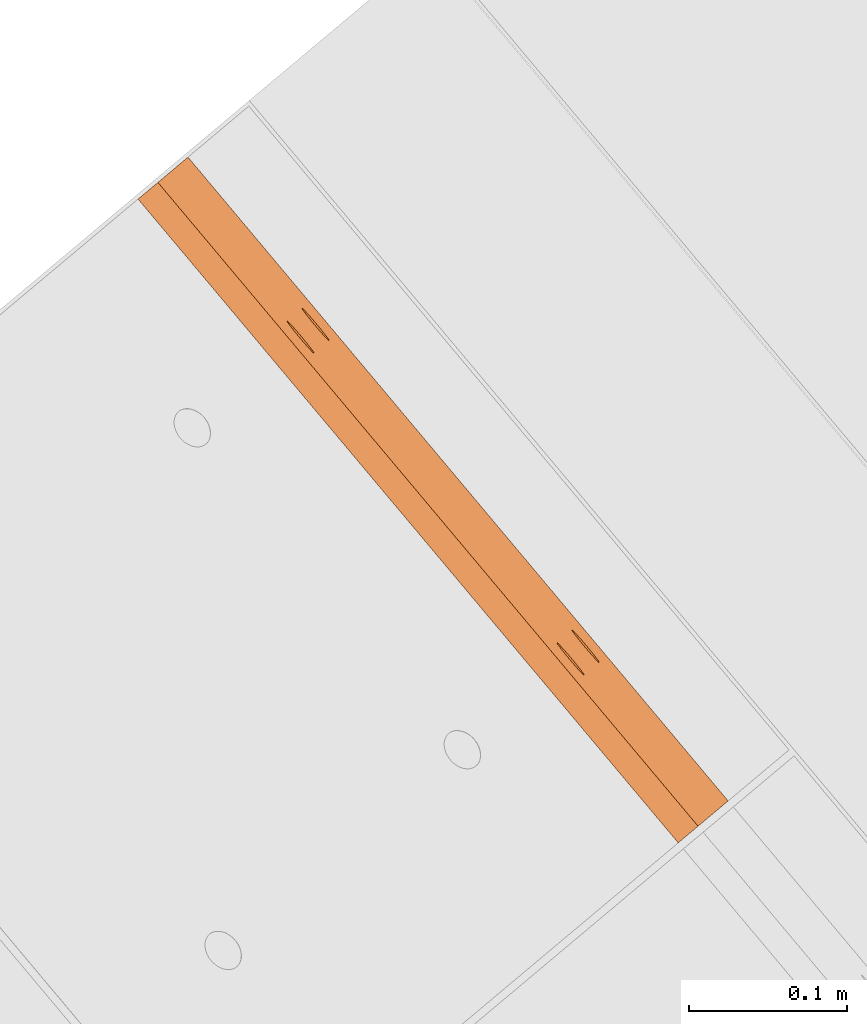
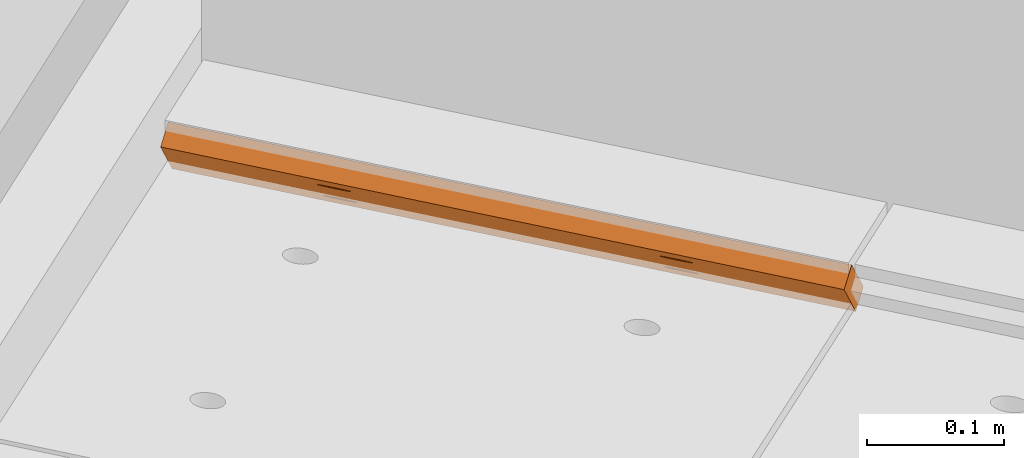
# One storey, part 327 of 338: 1 proxy, 1 element without a shape of its own.
"""IFC2X3 building model written with IfcOpenShell, lengths in millimetres."""

from ifc_helpers import new_model, entity, si_unit, converted_unit, derived_unit, money_unit, direction, frame, origin_with_axes, place, context, subcontext, project, spatial, faceted_brep, material, type_object, element, aggregate, save


model = new_model("IFC2X3")

# Units and contexts
model_context = context("Model", 3, precision=0.01, world=origin_with_axes(), true_north=direction((0.0, 1.0)))
plan_context = context("Plan", 3, precision=0.01, world=origin_with_axes(), true_north=direction((0.0, 1.0)))
body_context = subcontext(model_context, "Body", "Model", "MODEL_VIEW")
ifc_project = project(units=[si_unit("LENGTHUNIT", "METRE", prefix="MILLI"), si_unit("AREAUNIT", "SQUARE_METRE"), si_unit("VOLUMEUNIT", "CUBIC_METRE"), converted_unit("PLANEANGLEUNIT", "DEGREE", entity("IfcPlaneAngleMeasure", 0.0174532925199), si_unit("PLANEANGLEUNIT", "RADIAN"), dimensions=[0, 0, 0, 0, 0, 0, 0]), money_unit("EUR"), converted_unit("TIMEUNIT", "Year", entity("IfcTimeMeasure", 31556926.0), si_unit("TIMEUNIT", "SECOND"), dimensions=[0, 0, 1, 0, 0, 0, 0]), si_unit("MASSUNIT", "GRAM", prefix="KILO"), si_unit("THERMODYNAMICTEMPERATUREUNIT", "DEGREE_CELSIUS"), si_unit("LUMINOUSINTENSITYUNIT", "LUMEN"), si_unit("ENERGYUNIT", "JOULE", prefix="MEGA"), derived_unit("THERMALCONDUCTANCEUNIT", [(si_unit("POWERUNIT", "WATT"), 1), (si_unit("LENGTHUNIT", "METRE"), -1), (si_unit("THERMODYNAMICTEMPERATUREUNIT", "KELVIN"), -1)]), derived_unit("SPECIFICHEATCAPACITYUNIT", [(si_unit("ENERGYUNIT", "JOULE"), 1), (si_unit("MASSUNIT", "GRAM", prefix="KILO"), -1), (si_unit("THERMODYNAMICTEMPERATUREUNIT", "KELVIN"), -1)]), derived_unit("MASSDENSITYUNIT", [(si_unit("MASSUNIT", "GRAM", prefix="KILO"), 1), (si_unit("VOLUMEUNIT", "CUBIC_METRE"), -1)])], contexts=[model_context, plan_context])

# Site, building, storey
site_placement = place(None, origin_with_axes())
site = spatial("IfcSite", under=ifc_project, at=site_placement, Name="Fortuinstraat Woensdrecht", CompositionType="ELEMENT")
building_placement = place(site_placement, origin_with_axes())
building = spatial("IfcBuilding", under=site, at=building_placement, Name="IKC Fortuna", CompositionType="ELEMENT")
storey_placement = place(building_placement, origin_with_axes())
storey = spatial("IfcBuildingStorey", under=building, at=storey_placement, Name="00 begane grond", CompositionType="ELEMENT", Elevation=0.0)

# Covering, proxy
covering_type = type_object("IfcCoveringType", Name="Curtain Wall Type", PredefinedType="CEILING")
covering_placement = place(storey_placement, frame((15863.124366, 4456.31398675, 4619.99995334), z_axis=(0.0, 0.0, 1.0), x_axis=(1.0, 0.0, 0.0)))
covering = element("IfcCovering", 1, at=covering_placement, inside=storey, type_object=covering_type, Name="45_Plafondafwerking_P01", PredefinedType="CEILING")
ifc_material = material(Name="Gipsplaat")
building_element_proxy_type = type_object("IfcBuildingElementProxyType", Name="Main Panel 49 x 538 x 20", PredefinedType="NOTDEFINED")
proxy_placement = place(covering_placement, frame((-4072.44785403, 4806.99547783, 20.0000466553), z_axis=(0.0, 0.0, 1.0), x_axis=(-0.642787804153, 0.766044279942, 0.0)))
proxy = element("IfcBuildingElementProxy", 2, at=proxy_placement, type_object=building_element_proxy_type, material=ifc_material, Name="__600x762 Rockfon Krios", context=body_context, shape_type="Brep", body=[
    faceted_brep([(266.295869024, 4.24064213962, 23.6480574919), (266.295869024, -8.21516421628, 5.70184855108), (266.295869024, 8.21516791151, -5.70184322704), (266.295869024, 20.6709742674, 12.2443657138), (-1.80604908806e-05, 4.24064213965, 23.6480574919), (-266.295905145, 4.24064213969, 23.648057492), (-266.295905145, -8.21516421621, 5.70184855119), (-266.295905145, -20.6709705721, -12.2443603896), (-1.80605006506e-05, -20.6709705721, -12.2443603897), (266.295869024, -20.6709705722, -12.2443603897), (-134.322644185, -2.61528488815, 13.7701021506), (-136.636317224, -2.59620270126, 13.7975955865), (-138.843998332, -2.55861813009, 13.851747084), (-140.878608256, -2.5036731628, 13.9309112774), (-142.678326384, -2.43303727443, 14.0326828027), (-144.188469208, -2.34885670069, 14.1539693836), (-145.36315179, -2.25368922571, 14.2910857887), (-146.166682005, -2.15042646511, 14.4398658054), (-146.574644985, -2.04220600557, 14.5957888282), (-146.574644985, -1.93231607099, 14.754117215), (-146.166682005, -1.82409561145, 14.9100402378), (-145.36315179, -1.72083285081, 15.0588202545), (-144.188469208, -1.62566537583, 15.1959366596), (-142.678326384, -1.54148480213, 15.3172232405), (-140.878608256, -1.47084891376, 15.4189947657), (-138.843998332, -1.41590394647, 15.4981589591), (-136.636317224, -1.37831937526, 15.5523104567), (-134.322644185, -1.3592371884, 15.5798038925), (-133.147961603, -1.3592371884, 15.5798038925), (-131.973279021, -1.3592371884, 15.5798038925), (-129.659605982, -1.37831937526, 15.5523104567), (-127.451924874, -1.41590394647, 15.4981589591), (-125.41731495, -1.47084891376, 15.4189947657), (-123.617596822, -1.54148480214, 15.3172232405), (-122.107453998, -1.62566537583, 15.1959366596), (-120.932771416, -1.72083285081, 15.0588202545), (-120.129241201, -1.82409561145, 14.9100402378), (-119.72127822, -1.93231607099, 14.754117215), (-119.72127822, -2.04220600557, 14.5957888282), (-120.129241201, -2.15042646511, 14.4398658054), (-120.932771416, -2.25368922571, 14.2910857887), (-122.107453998, -2.34885670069, 14.1539693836), (-123.617596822, -2.43303727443, 14.0326828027), (-125.41731495, -2.5036731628, 13.9309112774), (-127.451924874, -2.55861813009, 13.851747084), (-129.659605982, -2.59620270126, 13.7975955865), (-131.973279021, -2.61528488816, 13.7701021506), (-134.322644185, -15.0710912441, -4.17610679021), (-136.636317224, -15.0520090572, -4.14861335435), (-138.843998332, -15.014424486, -4.09446185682), (-140.878608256, -14.9594795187, -4.01529766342), (-142.678326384, -14.8888436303, -3.91352613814), (-144.188469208, -14.8046630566, -3.79223955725), (-145.36315179, -14.7094955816, -3.65512315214), (-146.166682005, -14.606232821, -3.50634313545), (-146.574644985, -14.4980123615, -3.35042011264), (-146.574644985, -14.3881224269, -3.19209172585), (-146.166682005, -14.2799019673, -3.03616870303), (-145.36315179, -14.1766392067, -2.88738868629), (-144.188469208, -14.0814717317, -2.75027228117), (-142.678326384, -13.997291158, -2.62898570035), (-140.878608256, -13.9266552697, -2.52721417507), (-138.843998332, -13.8717103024, -2.44804998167), (-136.636317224, -13.8341257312, -2.39389848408), (-134.322644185, -13.8150435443, -2.36640504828), (-133.147961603, -13.8150435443, -2.36640504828), (-131.973279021, -13.8150435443, -2.36640504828), (-129.659605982, -13.8341257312, -2.39389848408), (-127.451924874, -13.8717103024, -2.44804998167), (-125.41731495, -13.9266552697, -2.52721417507), (-123.617596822, -13.997291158, -2.62898570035), (-122.107453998, -14.0814717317, -2.75027228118), (-120.932771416, -14.1766392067, -2.88738868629), (-120.129241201, -14.2799019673, -3.03616870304), (-119.72127822, -14.3881224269, -3.19209172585), (-119.72127822, -14.4980123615, -3.35042011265), (-120.129241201, -14.606232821, -3.50634313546), (-120.932771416, -14.7094955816, -3.65512315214), (-122.107453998, -14.8046630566, -3.79223955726), (-123.617596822, -14.8888436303, -3.91352613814), (-125.41731495, -14.9594795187, -4.01529766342), (-127.451924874, -15.014424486, -4.09446185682), (-129.659605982, -15.0520090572, -4.14861335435), (-131.973279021, -15.0710912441, -4.17610679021), (131.9732429, -15.0710912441, -4.17610679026), (129.659569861, -15.0520090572, -4.1486133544), (127.451888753, -15.014424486, -4.09446185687), (125.417278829, -14.9594795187, -4.01529766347), (123.617560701, -14.8888436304, -3.91352613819), (122.107417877, -14.8046630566, -3.7922395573), (120.932735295, -14.7094955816, -3.65512315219), (120.12920508, -14.606232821, -3.5063431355), (119.721242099, -14.4980123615, -3.35042011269), (119.721242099, -14.3881224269, -3.1920917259), (120.12920508, -14.2799019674, -3.03616870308), (120.932735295, -14.1766392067, -2.88738868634), (122.107417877, -14.0814717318, -2.75027228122), (123.617560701, -13.9972911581, -2.6289857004), (125.417278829, -13.9266552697, -2.52721417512), (127.451888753, -13.8717103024, -2.44804998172), (129.659569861, -13.8341257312, -2.39389848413), (131.9732429, -13.8150435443, -2.36640504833), (133.147925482, -13.8150435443, -2.36640504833), (134.322608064, -13.8150435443, -2.36640504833), (136.636281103, -13.8341257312, -2.39389848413), (138.843962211, -13.8717103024, -2.44804998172), (140.878572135, -13.9266552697, -2.52721417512), (142.678290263, -13.9972911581, -2.6289857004), (144.188433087, -14.0814717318, -2.75027228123), (145.363115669, -14.1766392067, -2.88738868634), (146.166645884, -14.2799019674, -3.03616870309), (146.574608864, -14.3881224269, -3.1920917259), (146.574608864, -14.4980123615, -3.3504201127), (146.166645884, -14.606232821, -3.50634313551), (145.363115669, -14.7094955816, -3.65512315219), (144.188433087, -14.8046630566, -3.79223955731), (142.678290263, -14.8888436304, -3.91352613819), (140.878572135, -14.9594795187, -4.01529766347), (138.843962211, -15.014424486, -4.09446185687), (136.636281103, -15.0520090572, -4.1486133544), (134.322608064, -15.0710912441, -4.17610679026), (131.9732429, -2.61528488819, 13.7701021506), (129.659569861, -2.59620270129, 13.7975955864), (127.451888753, -2.55861813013, 13.8517470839), (125.417278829, -2.50367316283, 13.9309112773), (123.617560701, -2.43303727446, 14.0326828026), (122.107417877, -2.34885670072, 14.1539693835), (120.932735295, -2.25368922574, 14.2910857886), (120.12920508, -2.15042646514, 14.4398658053), (119.721242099, -2.04220600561, 14.5957888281), (119.721242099, -1.93231607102, 14.7541172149), (120.12920508, -1.82409561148, 14.9100402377), (120.932735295, -1.72083285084, 15.0588202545), (122.107417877, -1.62566537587, 15.1959366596), (123.617560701, -1.54148480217, 15.3172232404), (125.417278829, -1.4708489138, 15.4189947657), (127.451888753, -1.4159039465, 15.4981589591), (129.659569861, -1.37831937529, 15.5523104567), (131.9732429, -1.35923718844, 15.5798038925), (133.147925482, -1.35923718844, 15.5798038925), (134.322608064, -1.35923718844, 15.5798038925), (136.636281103, -1.37831937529, 15.5523104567), (138.843962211, -1.4159039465, 15.4981589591), (140.878572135, -1.4708489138, 15.4189947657), (142.678290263, -1.54148480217, 15.3172232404), (144.188433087, -1.62566537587, 15.1959366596), (145.363115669, -1.72083285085, 15.0588202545), (146.166645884, -1.82409561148, 14.9100402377), (146.574608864, -1.93231607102, 14.7541172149), (146.574608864, -2.04220600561, 14.5957888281), (146.166645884, -2.15042646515, 14.4398658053), (145.363115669, -2.25368922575, 14.2910857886), (144.188433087, -2.34885670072, 14.1539693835), (142.678290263, -2.43303727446, 14.0326828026), (140.878572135, -2.50367316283, 13.9309112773), (138.843962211, -2.55861813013, 13.8517470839), (136.636281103, -2.59620270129, 13.7975955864), (134.322608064, -2.61528488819, 13.7701021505), (266.295869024, -4.24063844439, -23.6480521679), (-1.80604997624e-05, -4.24063844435, -23.6480521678), (-266.295905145, -4.24063844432, -23.6480521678), (-266.295905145, 8.21516791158, -5.70184322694), (-266.295905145, 20.6709742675, 12.2443657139), (-1.80604899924e-05, 20.6709742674, 12.2443657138), (-134.322644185, 13.8150472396, 2.36641037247), (-131.973279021, 13.8150472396, 2.36641037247), (-129.659605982, 13.8341294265, 2.39390380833), (-127.451924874, 13.8717139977, 2.44805530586), (-125.41731495, 13.926658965, 2.52721949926), (-123.617596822, 13.9972948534, 2.62899102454), (-122.107453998, 14.0814754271, 2.75027760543), (-120.932771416, 14.1766429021, 2.88739401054), (-120.129241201, 14.2799056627, 3.03617402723), (-119.72127822, 14.3881261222, 3.19209705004), (-119.72127822, 14.4980160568, 3.35042543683), (-120.129241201, 14.6062365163, 3.50634845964), (-120.932771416, 14.709499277, 3.65512847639), (-122.107453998, 14.804666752, 3.79224488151), (-123.617596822, 14.8888473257, 3.91353146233), (-125.41731495, 14.959483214, 4.01530298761), (-127.451924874, 15.0144281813, 4.09446718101), (-129.659605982, 15.0520127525, 4.1486186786), (-131.973279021, 15.0710949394, 4.1761121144), (-133.147961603, 15.0710949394, 4.1761121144), (-134.322644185, 15.0710949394, 4.1761121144), (-136.636317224, 15.0520127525, 4.14861867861), (-138.843998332, 15.0144281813, 4.09446718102), (-140.878608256, 14.959483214, 4.01530298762), (-142.678326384, 14.8888473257, 3.91353146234), (-144.188469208, 14.804666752, 3.79224488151), (-145.36315179, 14.709499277, 3.6551284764), (-146.166682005, 14.6062365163, 3.50634845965), (-146.574644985, 14.4980160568, 3.35042543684), (-146.574644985, 14.3881261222, 3.19209705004), (-146.166682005, 14.2799056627, 3.03617402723), (-145.36315179, 14.1766429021, 2.88739401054), (-144.188469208, 14.0814754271, 2.75027760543), (-142.678326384, 13.9972948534, 2.62899102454), (-140.878608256, 13.926658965, 2.52721949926), (-138.843998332, 13.8717139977, 2.44805530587), (-136.636317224, 13.8341294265, 2.39390380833), (-134.322644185, 1.35924088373, -15.5797985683), (-131.973279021, 1.35924088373, -15.5797985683), (-129.659605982, 1.37832307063, -15.5523051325), (-127.451924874, 1.4159076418, -15.4981536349), (-125.41731495, 1.47085260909, -15.4189894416), (-123.617596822, 1.54148849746, -15.3172179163), (-122.107453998, 1.6256690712, -15.1959313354), (-120.932771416, 1.72083654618, -15.0588149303), (-120.129241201, 1.82409930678, -14.9100349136), (-119.72127822, 1.93231976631, -14.7541118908), (-119.72127822, 2.0422097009, -14.595783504), (-120.129241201, 2.15043016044, -14.4398604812), (-120.932771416, 2.25369292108, -14.2910804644), (-122.107453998, 2.34886039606, -14.1539640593), (-123.617596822, 2.43304096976, -14.0326774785), (-125.41731495, 2.50367685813, -13.9309059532), (-127.451924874, 2.55862182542, -13.8517417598), (-129.659605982, 2.59620639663, -13.7975902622), (-131.973279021, 2.61528858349, -13.7700968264), (-133.147961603, 2.61528858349, -13.7700968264), (-134.322644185, 2.61528858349, -13.7700968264), (-136.636317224, 2.59620639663, -13.7975902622), (-138.843998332, 2.55862182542, -13.8517417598), (-140.878608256, 2.50367685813, -13.9309059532), (-142.678326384, 2.43304096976, -14.0326774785), (-144.188469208, 2.34886039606, -14.1539640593), (-145.36315179, 2.25369292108, -14.2910804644), (-146.166682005, 2.15043016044, -14.4398604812), (-146.574644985, 2.0422097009, -14.595783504), (-146.574644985, 1.93231976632, -14.7541118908), (-146.166682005, 1.82409930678, -14.9100349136), (-145.36315179, 1.72083654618, -15.0588149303), (-144.188469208, 1.62566907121, -15.1959313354), (-142.678326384, 1.54148849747, -15.3172179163), (-140.878608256, 1.47085260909, -15.4189894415), (-138.843998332, 1.4159076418, -15.4981536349), (-136.636317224, 1.37832307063, -15.5523051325), (131.9732429, 1.3592408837, -15.5797985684), (134.322608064, 1.3592408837, -15.5797985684), (136.636281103, 1.3783230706, -15.5523051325), (138.843962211, 1.41590764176, -15.498153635), (140.878572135, 1.47085260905, -15.4189894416), (142.678290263, 1.54148849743, -15.3172179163), (144.188433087, 1.62566907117, -15.1959313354), (145.363115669, 1.72083654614, -15.0588149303), (146.166645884, 1.82409930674, -14.9100349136), (146.574608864, 1.93231976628, -14.7541118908), (146.574608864, 2.04220970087, -14.595783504), (146.166645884, 2.15043016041, -14.4398604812), (145.363115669, 2.25369292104, -14.2910804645), (144.188433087, 2.34886039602, -14.1539640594), (142.678290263, 2.43304096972, -14.0326774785), (140.878572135, 2.50367685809, -13.9309059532), (138.843962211, 2.55862182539, -13.8517417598), (136.636281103, 2.5962063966, -13.7975902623), (134.322608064, 2.61528858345, -13.7700968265), (133.147925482, 2.61528858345, -13.7700968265), (131.9732429, 2.61528858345, -13.7700968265), (129.659569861, 2.5962063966, -13.7975902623), (127.451888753, 2.55862182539, -13.8517417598), (125.417278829, 2.5036768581, -13.9309059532), (123.617560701, 2.43304096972, -14.0326774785), (122.107417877, 2.34886039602, -14.1539640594), (120.932735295, 2.25369292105, -14.2910804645), (120.12920508, 2.15043016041, -14.4398604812), (119.721242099, 2.04220970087, -14.595783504), (119.721242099, 1.93231976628, -14.7541118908), (120.12920508, 1.82409930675, -14.9100349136), (120.932735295, 1.72083654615, -15.0588149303), (122.107417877, 1.62566907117, -15.1959313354), (123.617560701, 1.54148849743, -15.3172179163), (125.417278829, 1.47085260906, -15.4189894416), (127.451888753, 1.41590764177, -15.498153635), (129.659569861, 1.3783230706, -15.5523051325), (131.9732429, 13.8150472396, 2.36641037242), (134.322608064, 13.8150472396, 2.36641037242), (136.636281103, 13.8341294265, 2.39390380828), (138.843962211, 13.8717139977, 2.44805530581), (140.878572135, 13.926658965, 2.52721949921), (142.678290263, 13.9972948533, 2.62899102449), (144.188433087, 14.0814754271, 2.75027760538), (145.363115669, 14.176642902, 2.88739401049), (146.166645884, 14.2799056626, 3.03617402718), (146.574608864, 14.3881261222, 3.19209704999), (146.574608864, 14.4980160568, 3.35042543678), (146.166645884, 14.6062365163, 3.50634845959), (145.363115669, 14.7094992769, 3.65512847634), (144.188433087, 14.8046667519, 3.79224488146), (142.678290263, 14.8888473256, 3.91353146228), (140.878572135, 14.959483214, 4.01530298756), (138.843962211, 15.0144281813, 4.09446718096), (136.636281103, 15.0520127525, 4.14861867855), (134.322608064, 15.0710949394, 4.17611211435), (133.147925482, 15.0710949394, 4.17611211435), (131.9732429, 15.0710949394, 4.17611211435), (129.659569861, 15.0520127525, 4.14861867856), (127.451888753, 15.0144281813, 4.09446718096), (125.417278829, 14.959483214, 4.01530298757), (123.617560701, 14.8888473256, 3.91353146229), (122.107417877, 14.8046667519, 3.79224488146), (120.932735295, 14.7094992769, 3.65512847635), (120.12920508, 14.6062365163, 3.5063484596), (119.721242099, 14.4980160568, 3.35042543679), (119.721242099, 14.3881261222, 3.19209704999), (120.12920508, 14.2799056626, 3.03617402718), (120.932735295, 14.176642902, 2.88739401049), (122.107417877, 14.0814754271, 2.75027760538), (123.617560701, 13.9972948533, 2.62899102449), (125.417278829, 13.926658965, 2.52721949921), (127.451888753, 13.8717139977, 2.44805530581), (129.659569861, 13.8341294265, 2.39390380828)], [[[0, 1, 2, 3]], [[0, 4, 5, 6, 7, 8, 9, 1], [10, 11, 12, 13, 14, 15, 16, 17, 18, 19, 20, 21, 22, 23, 24, 25, 26, 27, 28, 29, 30, 31, 32, 33, 34, 35, 36, 37, 38, 39, 40, 41, 42, 43, 44, 45, 46], [47, 48, 49, 50, 51, 52, 53, 54, 55, 56, 57, 58, 59, 60, 61, 62, 63, 64, 65, 66, 67, 68, 69, 70, 71, 72, 73, 74, 75, 76, 77, 78, 79, 80, 81, 82, 83], [84, 85, 86, 87, 88, 89, 90, 91, 92, 93, 94, 95, 96, 97, 98, 99, 100, 101, 102, 103, 104, 105, 106, 107, 108, 109, 110, 111, 112, 113, 114, 115, 116, 117, 118, 119, 120], [121, 122, 123, 124, 125, 126, 127, 128, 129, 130, 131, 132, 133, 134, 135, 136, 137, 138, 139, 140, 141, 142, 143, 144, 145, 146, 147, 148, 149, 150, 151, 152, 153, 154, 155, 156, 157]], [[1, 9, 158, 2]], [[3, 2, 158, 159, 160, 161, 162, 163], [164, 165, 166, 167, 168, 169, 170, 171, 172, 173, 174, 175, 176, 177, 178, 179, 180, 181, 182, 183, 184, 185, 186, 187, 188, 189, 190, 191, 192, 193, 194, 195, 196, 197, 198, 199, 200], [201, 202, 203, 204, 205, 206, 207, 208, 209, 210, 211, 212, 213, 214, 215, 216, 217, 218, 219, 220, 221, 222, 223, 224, 225, 226, 227, 228, 229, 230, 231, 232, 233, 234, 235, 236, 237], [238, 239, 240, 241, 242, 243, 244, 245, 246, 247, 248, 249, 250, 251, 252, 253, 254, 255, 256, 257, 258, 259, 260, 261, 262, 263, 264, 265, 266, 267, 268, 269, 270, 271, 272, 273, 274], [275, 276, 277, 278, 279, 280, 281, 282, 283, 284, 285, 286, 287, 288, 289, 290, 291, 292, 293, 294, 295, 296, 297, 298, 299, 300, 301, 302, 303, 304, 305, 306, 307, 308, 309, 310, 311]], [[4, 0, 3, 163]], [[5, 4, 163, 162]], [[6, 5, 162, 161]], [[7, 6, 161, 160]], [[8, 7, 160, 159]], [[9, 8, 159, 158]], [[11, 10, 164, 200]], [[12, 11, 200, 199]], [[13, 12, 199, 198]], [[14, 13, 198, 197]], [[15, 14, 197, 196]], [[16, 15, 196, 195]], [[17, 16, 195, 194]], [[18, 17, 194, 193]], [[19, 18, 193, 192]], [[20, 19, 192, 191]], [[21, 20, 191, 190]], [[22, 21, 190, 189]], [[23, 22, 189, 188]], [[24, 23, 188, 187]], [[25, 24, 187, 186]], [[26, 25, 186, 185]], [[27, 26, 185, 184]], [[28, 27, 184, 183]], [[29, 28, 183, 182]], [[30, 29, 182, 181]], [[31, 30, 181, 180]], [[32, 31, 180, 179]], [[33, 32, 179, 178]], [[34, 33, 178, 177]], [[35, 34, 177, 176]], [[36, 35, 176, 175]], [[37, 36, 175, 174]], [[38, 37, 174, 173]], [[39, 38, 173, 172]], [[40, 39, 172, 171]], [[41, 40, 171, 170]], [[42, 41, 170, 169]], [[43, 42, 169, 168]], [[44, 43, 168, 167]], [[45, 44, 167, 166]], [[46, 45, 166, 165]], [[10, 46, 165, 164]], [[48, 47, 201, 237]], [[49, 48, 237, 236]], [[50, 49, 236, 235]], [[51, 50, 235, 234]], [[52, 51, 234, 233]], [[53, 52, 233, 232]], [[54, 53, 232, 231]], [[55, 54, 231, 230]], [[56, 55, 230, 229]], [[57, 56, 229, 228]], [[58, 57, 228, 227]], [[59, 58, 227, 226]], [[60, 59, 226, 225]], [[61, 60, 225, 224]], [[62, 61, 224, 223]], [[63, 62, 223, 222]], [[64, 63, 222, 221]], [[65, 64, 221, 220]], [[66, 65, 220, 219]], [[67, 66, 219, 218]], [[68, 67, 218, 217]], [[69, 68, 217, 216]], [[70, 69, 216, 215]], [[71, 70, 215, 214]], [[72, 71, 214, 213]], [[73, 72, 213, 212]], [[74, 73, 212, 211]], [[75, 74, 211, 210]], [[76, 75, 210, 209]], [[77, 76, 209, 208]], [[78, 77, 208, 207]], [[79, 78, 207, 206]], [[80, 79, 206, 205]], [[81, 80, 205, 204]], [[82, 81, 204, 203]], [[83, 82, 203, 202]], [[47, 83, 202, 201]], [[85, 84, 238, 274]], [[86, 85, 274, 273]], [[87, 86, 273, 272]], [[88, 87, 272, 271]], [[89, 88, 271, 270]], [[90, 89, 270, 269]], [[91, 90, 269, 268]], [[92, 91, 268, 267]], [[93, 92, 267, 266]], [[94, 93, 266, 265]], [[95, 94, 265, 264]], [[96, 95, 264, 263]], [[97, 96, 263, 262]], [[98, 97, 262, 261]], [[99, 98, 261, 260]], [[100, 99, 260, 259]], [[101, 100, 259, 258]], [[102, 101, 258, 257]], [[103, 102, 257, 256]], [[104, 103, 256, 255]], [[105, 104, 255, 254]], [[106, 105, 254, 253]], [[107, 106, 253, 252]], [[108, 107, 252, 251]], [[109, 108, 251, 250]], [[110, 109, 250, 249]], [[111, 110, 249, 248]], [[112, 111, 248, 247]], [[113, 112, 247, 246]], [[114, 113, 246, 245]], [[115, 114, 245, 244]], [[116, 115, 244, 243]], [[117, 116, 243, 242]], [[118, 117, 242, 241]], [[119, 118, 241, 240]], [[120, 119, 240, 239]], [[84, 120, 239, 238]], [[122, 121, 275, 311]], [[123, 122, 311, 310]], [[124, 123, 310, 309]], [[125, 124, 309, 308]], [[126, 125, 308, 307]], [[127, 126, 307, 306]], [[128, 127, 306, 305]], [[129, 128, 305, 304]], [[130, 129, 304, 303]], [[131, 130, 303, 302]], [[132, 131, 302, 301]], [[133, 132, 301, 300]], [[134, 133, 300, 299]], [[135, 134, 299, 298]], [[136, 135, 298, 297]], [[137, 136, 297, 296]], [[138, 137, 296, 295]], [[139, 138, 295, 294]], [[140, 139, 294, 293]], [[141, 140, 293, 292]], [[142, 141, 292, 291]], [[143, 142, 291, 290]], [[144, 143, 290, 289]], [[145, 144, 289, 288]], [[146, 145, 288, 287]], [[147, 146, 287, 286]], [[148, 147, 286, 285]], [[149, 148, 285, 284]], [[150, 149, 284, 283]], [[151, 150, 283, 282]], [[152, 151, 282, 281]], [[153, 152, 281, 280]], [[154, 153, 280, 279]], [[155, 154, 279, 278]], [[156, 155, 278, 277]], [[157, 156, 277, 276]], [[121, 157, 276, 275]]]),
])
aggregate(covering, [proxy])

save(model, "model.ifc")
